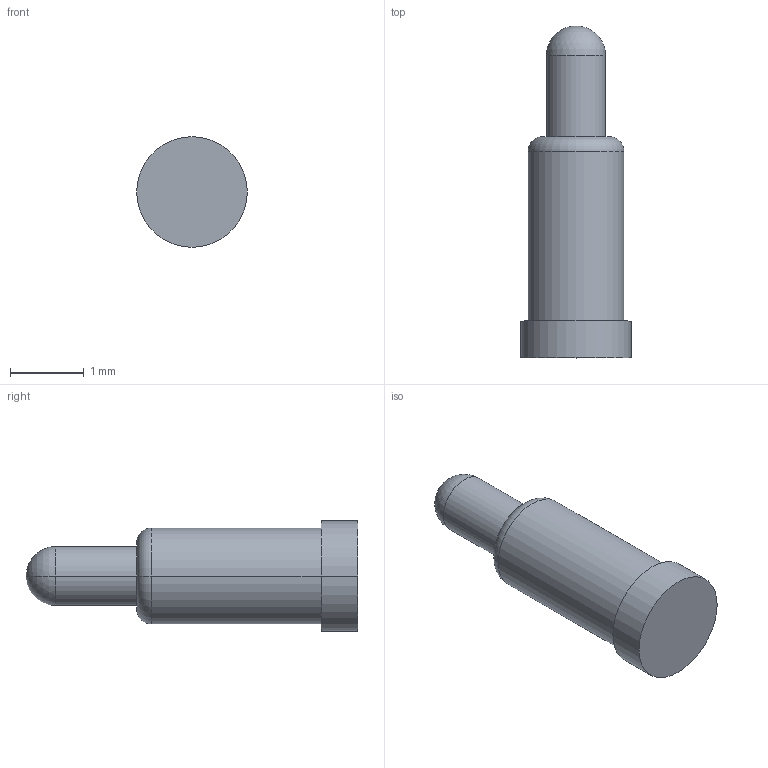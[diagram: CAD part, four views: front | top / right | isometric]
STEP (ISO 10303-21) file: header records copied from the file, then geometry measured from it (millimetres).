
FILE_DESCRIPTION((''),'2;1');
FILE_NAME('NC3273-01RA','2022-05-18T20:39:15',('Administrator'),(''),'CREO PARAMETRIC BY PTC INC, 2018400','CREO PARAMETRIC BY PTC INC, 2018400','');
FILE_SCHEMA(('CONFIG_CONTROL_DESIGN'));
Length unit declared in the file: millimetre
Products named in the file (1): NC3273-01RA
Bounding box: 1.5 x 4.5 x 1.5 mm (x, y, z)
Volume: 4.9 mm3; surface area: 19 mm2
Topology: 1 solids, 1 shells, 13 faces, 26 edges, 15 vertices
Faces by surface type: cylinder 6, plane 3, torus 2, sphere 2
Entity records: 370 total; most frequent: DIRECTION 68, CARTESIAN_POINT 52, ORIENTED_EDGE 48, AXIS2_PLACEMENT_3D 31, EDGE_CURVE 24, CIRCLE 18, VERTEX_POINT 15, EDGE_LOOP 15
